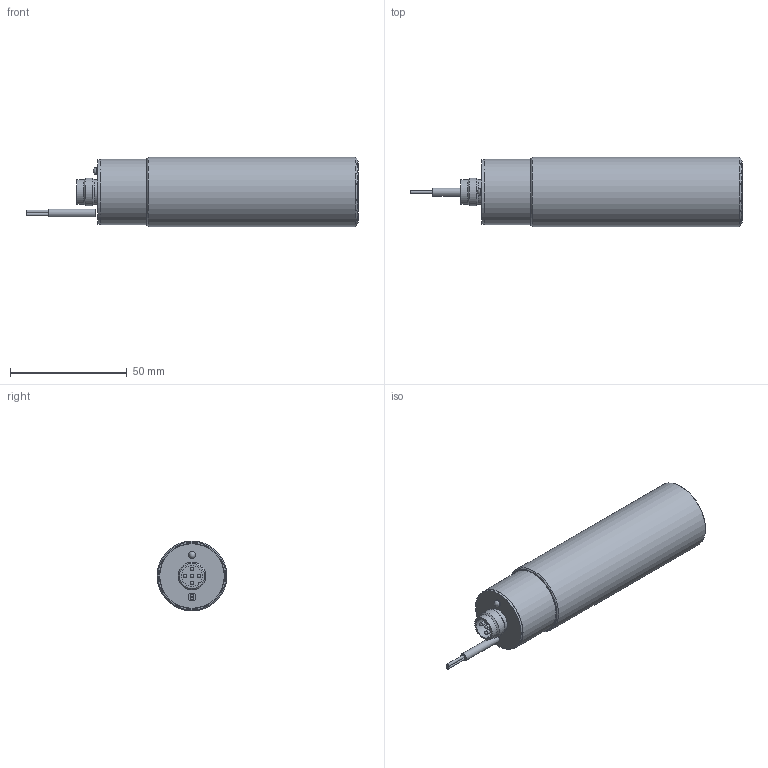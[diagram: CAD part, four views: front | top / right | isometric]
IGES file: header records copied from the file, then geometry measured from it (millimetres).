
Global section: file name: No Iges File Name specified; native system: AutoDesk Inventor R6.1; preprocessor: AutoDesk Inventor Iges Exporter R6.1; author: No Author specified; organization: No Organization specified; date: 20050810.113703; units: millimetre
Bounding box: 142.3 x 30 x 30 mm (x, y, z)
Surface area: 12754.5 mm2 (no closed solid volume)
Topology: 0 solids, 0 shells, 44 faces, 133 edges, 95 vertices
Faces by surface type: revolution 31, plane 13
